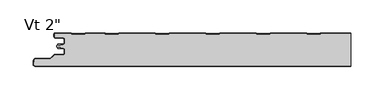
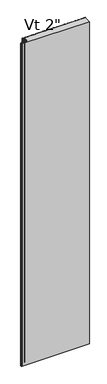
"""IFC4 building model written with IfcOpenShell, lengths in millimetres: plate geometry."""

from ifc_helpers import new_model, si_unit, point, frame, frame_2d, origin, origin_with_axes, place, context, project, spatial, polyline, circle_curve, trimmed, segment, composite_curve, outline, extrude, source, transform, mapped, element, save
from ifc_brep_helpers import plane_surface, cylinder_surface, revolved_surface, advanced_brep


def plate_daafeea0(model_context):
    return source(origin(), model_context, "Body", "SolidModel", [
        advanced_brep(
        [(-220.9683, -22.4708833, 2400.0), (-219.767176, -21.3014086, 2400.0), (-216.0087826, -21.3014086, 2400.0), (-216.0087826, -22.6998875, 2400.0), (-213.3096715, -22.6998875, 2400.0), (-209.9596762, -26.0498828, 2400.0), (-209.9596762, -30.449874, 2400.0), (-213.3096715, -33.7998693, 2400.0), (-225.1205606, -33.7998693, 2400.0), (-226.3226383, -34.2977862, 2400.0), (-231.8247094, -39.7998573, 2400.0), (-253.9198391, -39.7998573, 2400.0), (-256.5765707, -42.0184593, 2400.0), (-257.0125697, -47.0002802, 2400.0), (-254.4521175, -49.7946051, 2400.0), (221.9999998, -49.8000084, 2400.0), (221.9999998, -1.0063527, 2400.0), (176.779706, -1.0063527, 2400.0), (175.3940731, -2.2065834, 2400.0), (156.0189068, -2.2065834, 2400.0), (154.6332738, -1.0063527, 2400.0), (100.5798584, -1.0063527, 2400.0), (99.1942255, -2.2065834, 2400.0), (79.8190592, -2.2065834, 2400.0), (78.4334262, -1.0063527, 2400.0), (24.3800108, -1.0063527, 2400.0), (22.9943779, -2.2065834, 2400.0), (3.6192116, -2.2065834, 2400.0), (2.2335786, -1.0063527, 2400.0), (-51.8198368, -1.0063527, 2400.0), (-53.2054697, -2.2065834, 2400.0), (-72.580636, -2.2065834, 2400.0), (-73.966269, -1.0063527, 2400.0), (-128.0196844, -1.0063527, 2400.0), (-129.4053173, -2.2065834, 2400.0), (-148.7804836, -2.2065834, 2400.0), (-150.1661166, -1.0063527, 2400.0), (-178.819532, -1.0063527, 2400.0), (-180.2051649, -2.2065834, 2400.0), (-199.5803312, -2.2065834, 2400.0), (-200.9659738, -1.0063443, 2400.0), (-225.4662504, -1.0063443, 2400.0), (-225.4662504, -5.2378916, 2400.0), (-223.6962562, -7.0078858, 2400.0), (-213.2762777, -7.0078858, 2400.0), (-209.9762818, -10.3078817, 2400.0), (-209.9762818, -14.7078729, 2400.0), (-213.2762775, -18.0078686, 2400.0), (-215.9684873, -18.0078686, 2400.0), (-215.9684873, -19.0078631, 2400.0), (-219.968691, -19.0078631, 2400.0), (-220.9686882, -18.0078718, 2400.0), (-221.9999998, -19.0391835, 2400.0), (-221.9999998, -21.4391835, 2400.0), (-220.9683, -22.4708833, 0.0), (-221.9999998, -21.4391835, 0.0), (-221.9999998, -19.0391835, 0.0), (-220.9686882, -18.0078718, 0.0), (-219.968691, -19.0078631, 0.0), (-215.9684873, -19.0078631, 0.0), (-215.9684873, -18.0078686, 0.0), (-213.2762775, -18.0078686, 0.0), (-209.9762818, -14.7078729, 0.0), (-209.9762818, -10.3078817, 0.0), (-213.2762777, -7.0078858, 0.0), (-223.6962562, -7.0078858, 0.0), (-225.4662504, -5.2378916, 0.0), (-225.4662504, -1.0063443, 0.0), (-200.9659738, -1.0063443, 0.0), (-199.5803312, -2.2065834, 0.0), (-180.2051649, -2.2065834, 0.0), (-178.819532, -1.0063527, 0.0), (-150.1661166, -1.0063527, 0.0), (-148.7804836, -2.2065834, 0.0), (-129.4053173, -2.2065834, 0.0), (-128.0196844, -1.0063527, 0.0), (-73.966269, -1.0063527, 0.0), (-72.580636, -2.2065834, 0.0), (-53.2054697, -2.2065834, 0.0), (-51.8198368, -1.0063527, 0.0), (2.2335786, -1.0063527, 0.0), (3.6192116, -2.2065834, 0.0), (22.9943779, -2.2065834, 0.0), (24.3800108, -1.0063527, 0.0), (78.4334262, -1.0063527, 0.0), (79.8190592, -2.2065834, 0.0), (99.1942255, -2.2065834, 0.0), (100.5798584, -1.0063527, 0.0), (154.6332738, -1.0063527, 0.0), (156.0189068, -2.2065834, 0.0), (175.3940731, -2.2065834, 0.0), (176.779706, -1.0063527, 0.0), (221.9999998, -1.0063527, 0.0), (221.9999998, -49.8000084, 0.0), (-254.4521175, -49.8000084, 0.0), (-257.0125697, -47.0002802, 0.0), (-256.5765707, -42.0184593, 0.0), (-253.9198391, -39.7998573, 0.0), (-231.8247094, -39.7998573, 0.0), (-226.3226383, -34.2977862, 0.0), (-225.1205606, -33.7998693, 0.0), (-213.3096715, -33.7998693, 0.0), (-209.9596762, -30.449874, 0.0), (-209.9596762, -26.0498828, 0.0), (-213.3096715, -22.6998875, 0.0), (-216.0087826, -22.6998875, 0.0), (-216.0087826, -21.3014086, 0.0), (-219.767176, -21.3014086, 0.0)],
        [
            (0, 1, circle_curve(frame((-219.7686906, -22.5014053, 2400.0), z_axis=(0.0, 0.0, -1.0), x_axis=(-1.0, 0.0, 0.0)), 1.1999976)),
            (1, 2),
            (2, 3),
            (3, 4),
            (4, 5, circle_curve(frame((-213.3096715, -26.0498828, 2400.0), z_axis=(0.0, 0.0, -1.0), x_axis=(-1.0, 0.0, 0.0)), 3.3499953)),
            (5, 6),
            (6, 7, circle_curve(frame((-213.3096715, -30.449874, 2400.0), z_axis=(0.0, 0.0, -1.0), x_axis=(-1.0, 0.0, 0.0)), 3.3499953)),
            (7, 8),
            (8, 9, circle_curve(frame((-225.1205606, -35.4998639, 2400.0), z_axis=(0.0, 0.0, 1.0), x_axis=(-1.0, 0.0, 0.0)), 1.6999946)),
            (9, 10),
            (10, 11),
            (11, 12, circle_curve(frame((-253.9198391, -42.4998499, 2400.0), z_axis=(0.0, 0.0, 1.0), x_axis=(-1.0, 0.0, 0.0)), 2.6999926)),
            (12, 13),
            (13, 14, circle_curve(frame((-254.4521175, -47.2243658, 2400.0), z_axis=(0.0, 0.0, 1.0), x_axis=(-1.0, 0.0, 0.0)), 2.5702393)),
            (14, 15),
            (15, 16),
            (16, 17),
            (17, 18),
            (18, 19),
            (19, 20),
            (20, 21),
            (21, 22),
            (22, 23),
            (23, 24),
            (24, 25),
            (25, 26),
            (26, 27),
            (27, 28),
            (28, 29),
            (29, 30),
            (30, 31),
            (31, 32),
            (32, 33),
            (33, 34),
            (34, 35),
            (35, 36),
            (36, 37),
            (37, 38),
            (38, 39),
            (39, 40),
            (40, 41),
            (41, 42),
            (42, 43, circle_curve(frame((-223.6962562, -5.2378916, 2400.0), z_axis=(0.0, 0.0, 1.0), x_axis=(-1.0, 0.0, 0.0)), 1.7699942)),
            (43, 44),
            (44, 45, circle_curve(frame((-213.2762777, -10.3078817, 2400.0), z_axis=(0.0, 0.0, -1.0), x_axis=(-1.0, 0.0, 0.0)), 3.2999959)),
            (45, 46),
            (46, 47, circle_curve(frame((-213.2762775, -14.7078729, 2400.0), z_axis=(0.0, 0.0, -1.0), x_axis=(-1.0, 0.0, 0.0)), 3.2999957)),
            (47, 48),
            (48, 49),
            (49, 50),
            (50, 51, circle_curve(frame((-219.968691, -18.0078659, 2400.0), z_axis=(0.0, 0.0, -1.0), x_axis=(-1.0, 0.0, 0.0)), 0.9999972)),
            (51, 52),
            (52, 53),
            (53, 0),
            (54, 55),
            (55, 56),
            (56, 57),
            (57, 58, circle_curve(frame((-219.968691, -18.0078659, 0.0), z_axis=(0.0, 0.0, 1.0), x_axis=(-1.0, 0.0, 0.0)), 0.9999972)),
            (58, 59),
            (59, 60),
            (60, 61),
            (61, 62, circle_curve(frame((-213.2762775, -14.7078729, 0.0), z_axis=(0.0, 0.0, 1.0), x_axis=(-1.0, 0.0, 0.0)), 3.2999957)),
            (62, 63),
            (63, 64, circle_curve(frame((-213.2762777, -10.3078817, 0.0), z_axis=(0.0, 0.0, 1.0), x_axis=(-1.0, 0.0, 0.0)), 3.2999959)),
            (64, 65),
            (65, 66, circle_curve(frame((-223.6962562, -5.2378916, 0.0), z_axis=(0.0, 0.0, -1.0), x_axis=(-1.0, 0.0, 0.0)), 1.7699942)),
            (66, 67),
            (67, 68),
            (68, 69),
            (69, 70),
            (70, 71),
            (71, 72),
            (72, 73),
            (73, 74),
            (74, 75),
            (75, 76),
            (76, 77),
            (77, 78),
            (78, 79),
            (79, 80),
            (80, 81),
            (81, 82),
            (82, 83),
            (83, 84),
            (84, 85),
            (85, 86),
            (86, 87),
            (87, 88),
            (88, 89),
            (89, 90),
            (90, 91),
            (91, 92),
            (92, 93),
            (93, 94),
            (94, 95, circle_curve(frame((-254.4521175, -47.2243658, 0.0), z_axis=(0.0, 0.0, -1.0), x_axis=(-1.0, 0.0, 0.0)), 2.5702393)),
            (95, 96),
            (96, 97, circle_curve(frame((-253.9198391, -42.4998499, 0.0), z_axis=(0.0, 0.0, -1.0), x_axis=(-1.0, 0.0, 0.0)), 2.6999926)),
            (97, 98),
            (98, 99),
            (99, 100, circle_curve(frame((-225.1205606, -35.4998639, 0.0), z_axis=(0.0, 0.0, -1.0), x_axis=(-1.0, 0.0, 0.0)), 1.6999946)),
            (100, 101),
            (101, 102, circle_curve(frame((-213.3096715, -30.449874, 0.0), z_axis=(0.0, 0.0, 1.0), x_axis=(-1.0, 0.0, 0.0)), 3.3499953)),
            (102, 103),
            (103, 104, circle_curve(frame((-213.3096715, -26.0498828, 0.0), z_axis=(0.0, 0.0, 1.0), x_axis=(-1.0, 0.0, 0.0)), 3.3499953)),
            (104, 105),
            (105, 106),
            (106, 107),
            (107, 54, circle_curve(frame((-219.7686906, -22.5014053, 0.0), z_axis=(0.0, 0.0, 1.0), x_axis=(-1.0, 0.0, 0.0)), 1.1999976)),
            (53, 55),
            (54, 0),
            (52, 56),
            (51, 57),
            (50, 58),
            (49, 59),
            (48, 60),
            (47, 61),
            (46, 62),
            (45, 63),
            (44, 64),
            (43, 65),
            (42, 66),
            (41, 67),
            (93, 15),
            (14, 94),
            (13, 95),
            (12, 96),
            (11, 97),
            (10, 98),
            (9, 99),
            (8, 100),
            (7, 101),
            (6, 102),
            (5, 103),
            (4, 104),
            (3, 105),
            (2, 106),
            (1, 107),
            (92, 16),
            (40, 68),
            (33, 75),
            (74, 34),
            (36, 72),
            (71, 37),
            (35, 73),
            (70, 38),
            (69, 39),
            (29, 79),
            (78, 30),
            (77, 31),
            (32, 76),
            (27, 81),
            (80, 28),
            (25, 83),
            (82, 26),
            (23, 85),
            (84, 24),
            (22, 86),
            (21, 87),
            (17, 91),
            (90, 18),
            (89, 19),
            (20, 88),
        ],
        [
            plane_surface(frame((286.0000002, -49.8000084, 2400.0), z_axis=(0.0, 0.0, 1.0), x_axis=(0.0, -1.0, 0.0))),
            plane_surface(frame((286.0000002, -49.8000084, 0.0), z_axis=(0.0, 0.0, -1.0), x_axis=(0.0, -1.0, 0.0))),
            plane_surface(frame((-220.9683, -22.4708833, 2400.0), z_axis=(-0.707106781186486, -0.7071067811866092, 0.0), x_axis=(0.0, 0.0, -1.0))),
            plane_surface(frame((-221.9999998, -21.4391835, 2400.0), z_axis=(-1.0, 0.0, 0.0), x_axis=(0.0, 0.0, -1.0))),
            plane_surface(frame((-221.9999998, -19.0391835, 2400.0), z_axis=(-0.7071067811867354, 0.7071067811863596, 0.0), x_axis=(0.0, 0.0, -1.0))),
            revolved_surface(polyline([(-220.9686882, -18.0078659, 0.0), (-220.9686882, -18.0078659, 2400.0)]), (-219.968691, -18.0078659, 2400.0), (0.0, 0.0, -1.0)),
            plane_surface(frame((-219.968691, -19.0078631, 2400.0), z_axis=(0.0, 1.0, 0.0), x_axis=(0.0, 0.0, -1.0))),
            plane_surface(frame((-215.9684873, -19.0078631, 2400.0), z_axis=(-1.0, 0.0, 0.0), x_axis=(0.0, 0.0, -1.0))),
            plane_surface(frame((-215.9684873, -18.0078686, 2400.0), z_axis=(0.0, 1.0, 0.0), x_axis=(0.0, 0.0, -1.0))),
            revolved_surface(polyline([(-216.5762732, -14.7078729, 0.0), (-216.5762732, -14.7078729, 2400.0)]), (-213.2762775, -14.7078729, 2400.0), (0.0, 0.0, -1.0)),
            plane_surface(frame((-209.9762818, -14.7078729, 2400.0), z_axis=(-1.0, 0.0, 0.0), x_axis=(0.0, 0.0, -1.0))),
            revolved_surface(polyline([(-216.5762736, -10.3078817, 0.0), (-216.5762736, -10.3078817, 2400.0)]), (-213.2762777, -10.3078817, 2400.0), (0.0, 0.0, -1.0)),
            plane_surface(frame((-213.2762777, -7.0078858, 2400.0), z_axis=(0.0, -1.0, 0.0), x_axis=(0.0, 0.0, -1.0))),
            cylinder_surface(frame((-223.6962562, -5.2378916, 2400.0), z_axis=(0.0, 0.0, 1.0), x_axis=(-1.0, 0.0, 0.0)), 1.7699942),
            plane_surface(frame((-225.4662504, -5.2378916, 2400.0), z_axis=(-1.0, 0.0, 0.0), x_axis=(0.0, 0.0, -1.0))),
            plane_surface(frame((745.5156221, -49.8000084, 2400.0), z_axis=(0.0, -1.0, 0.0), x_axis=(0.0, 0.0, -1.0))),
            cylinder_surface(frame((-254.4521175, -47.2243658, 2400.0), z_axis=(0.0, 0.0, 1.0), x_axis=(-1.0, 0.0, 0.0)), 2.5702393),
            plane_surface(frame((-257.0125697, -47.0002802, 2400.0), z_axis=(-0.9961921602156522, 0.0871847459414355, 0.0), x_axis=(0.0, 0.0, -1.0))),
            cylinder_surface(frame((-253.9198391, -42.4998499, 2400.0), z_axis=(0.0, 0.0, 1.0), x_axis=(-1.0, 0.0, 0.0)), 2.6999926),
            plane_surface(frame((-253.9198391, -39.7998573, 2400.0), z_axis=(0.0, 1.0, 0.0), x_axis=(0.0, 0.0, -1.0))),
            plane_surface(frame((-231.8247094, -39.7998573, 2400.0), z_axis=(-0.7071067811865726, 0.7071067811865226, 0.0), x_axis=(0.0, 0.0, -1.0))),
            cylinder_surface(frame((-225.1205606, -35.4998639, 2400.0), z_axis=(0.0, 0.0, 1.0), x_axis=(-1.0, 0.0, 0.0)), 1.6999946),
            plane_surface(frame((-225.1205606, -33.7998693, 2400.0), z_axis=(0.0, 1.0, 0.0), x_axis=(0.0, 0.0, -1.0))),
            revolved_surface(polyline([(-216.6596668, -30.449874, 0.0), (-216.6596668, -30.449874, 2400.0)]), (-213.3096715, -30.449874, 2400.0), (0.0, 0.0, -1.0)),
            plane_surface(frame((-209.9596762, -30.449874, 2400.0), z_axis=(-1.0, 0.0, 0.0), x_axis=(0.0, 0.0, -1.0))),
            revolved_surface(polyline([(-216.6596668, -26.0498828, 0.0), (-216.6596668, -26.0498828, 2400.0)]), (-213.3096715, -26.0498828, 2400.0), (0.0, 0.0, -1.0)),
            plane_surface(frame((-213.3096715, -22.6998875, 2400.0), z_axis=(0.0, -1.0, 0.0), x_axis=(0.0, 0.0, -1.0))),
            plane_surface(frame((-216.0087826, -22.6998875, 2400.0), z_axis=(-1.0, 0.0, 0.0), x_axis=(0.0, 0.0, -1.0))),
            plane_surface(frame((-216.0087826, -21.3014086, 2400.0), z_axis=(0.0, -1.0, 0.0), x_axis=(0.0, 0.0, -1.0))),
            revolved_surface(polyline([(-220.9686882, -22.5014053, 0.0), (-220.9686882, -22.5014053, 2400.0)]), (-219.7686906, -22.5014053, 2400.0), (0.0, 0.0, -1.0)),
            plane_surface(frame((221.9999998, -60.8000084, 2400.0), z_axis=(1.0, 0.0, 0.0), x_axis=(0.0, 0.0, -1.0))),
            plane_surface(frame((-225.4662504, -1.0063443, 2400.0), z_axis=(0.0, 1.0, 0.0), x_axis=(0.0, 0.0, -1.0))),
            plane_surface(frame((-129.4053173, -2.2065834, 2400.0), z_axis=(-0.6547276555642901, 0.7558648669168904, 0.0), x_axis=(0.0, 0.0, -1.0))),
            plane_surface(frame((-178.819532, -1.0063527, 2400.0), z_axis=(0.0, 1.0, 0.0), x_axis=(0.0, 0.0, -1.0))),
            plane_surface(frame((-150.1661166, -1.0063527, 2400.0), z_axis=(0.6547276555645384, 0.7558648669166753, 0.0), x_axis=(0.0, 0.0, -1.0))),
            plane_surface(frame((-180.2051649, -2.2065834, 2400.0), z_axis=(-0.6547276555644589, 0.7558648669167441, 0.0), x_axis=(0.0, 0.0, -1.0))),
            plane_surface(frame((-199.5803312, -2.2065834, 2400.0), z_axis=(0.0, 1.0, 0.0), x_axis=(0.0, 0.0, -1.0))),
            plane_surface(frame((-148.7804836, -2.2065834, 2400.0), z_axis=(0.0, 1.0, 0.0), x_axis=(0.0, 0.0, -1.0))),
            plane_surface(frame((-53.2054697, -2.2065834, 2400.0), z_axis=(-0.6547276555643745, 0.7558648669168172, 0.0), x_axis=(0.0, 0.0, -1.0))),
            plane_surface(frame((-72.580636, -2.2065834, 2400.0), z_axis=(0.0, 1.0, 0.0), x_axis=(0.0, 0.0, -1.0))),
            plane_surface(frame((-128.0196844, -1.0063527, 2400.0), z_axis=(0.0, 1.0, 0.0), x_axis=(0.0, 0.0, -1.0))),
            plane_surface(frame((-73.966269, -1.0063527, 2400.0), z_axis=(0.6547276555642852, 0.7558648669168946, 0.0), x_axis=(0.0, 0.0, -1.0))),
            plane_surface(frame((2.2335786, -1.0063527, 2400.0), z_axis=(0.6547276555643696, 0.7558648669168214, 0.0), x_axis=(0.0, 0.0, -1.0))),
            plane_surface(frame((22.9943779, -2.2065834, 2400.0), z_axis=(-0.6547276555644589, 0.7558648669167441, 0.0), x_axis=(0.0, 0.0, -1.0))),
            plane_surface(frame((-51.8198368, -1.0063527, 2400.0), z_axis=(0.0, 1.0, 0.0), x_axis=(0.0, 0.0, -1.0))),
            plane_surface(frame((3.6192116, -2.2065834, 2400.0), z_axis=(0.0, 1.0, 0.0), x_axis=(0.0, 0.0, -1.0))),
            plane_surface(frame((78.4334262, -1.0063527, 2400.0), z_axis=(0.654727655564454, 0.7558648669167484, 0.0), x_axis=(0.0, 0.0, -1.0))),
            plane_surface(frame((24.3800108, -1.0063527, 2400.0), z_axis=(0.0, 1.0, 0.0), x_axis=(0.0, 0.0, -1.0))),
            plane_surface(frame((79.8190592, -2.2065834, 2400.0), z_axis=(0.0, 1.0, 0.0), x_axis=(0.0, 0.0, -1.0))),
            plane_surface(frame((99.1942255, -2.2065834, 2400.0), z_axis=(-0.6547276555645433, 0.7558648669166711, 0.0), x_axis=(0.0, 0.0, -1.0))),
            plane_surface(frame((175.3940731, -2.2065834, 2400.0), z_axis=(-0.654727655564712, 0.755864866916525, 0.0), x_axis=(0.0, 0.0, -1.0))),
            plane_surface(frame((156.0189068, -2.2065834, 2400.0), z_axis=(0.0, 1.0, 0.0), x_axis=(0.0, 0.0, -1.0))),
            plane_surface(frame((100.5798584, -1.0063527, 2400.0), z_axis=(0.0, 1.0, 0.0), x_axis=(0.0, 0.0, -1.0))),
            plane_surface(frame((154.6332738, -1.0063527, 2400.0), z_axis=(0.6547276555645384, 0.7558648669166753, 0.0), x_axis=(0.0, 0.0, -1.0))),
            plane_surface(frame((176.779706, -1.0063527, 2400.0), z_axis=(0.0, 1.0, 0.0), x_axis=(0.0, 0.0, -1.0))),
            plane_surface(frame((-200.9659738, -1.0063443, 2400.0), z_axis=(0.6547276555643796, 0.7558648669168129, 0.0), x_axis=(0.0, 0.0, -1.0))),
        ],
        [
            (0, [[1, 2, 3, 4, 5, 6, 7, 8, 9, 10, 11, 12, 13, 14, 15, 16, 17, 18, 19, 20, 21, 22, 23, 24, 25, 26, 27, 28, 29, 30, 31, 32, 33, 34, 35, 36, 37, 38, 39, 40, 41, 42, 43, 44, 45, 46, 47, 48, 49, 50, 51, 52, 53, 54]]),
            (1, [[55, 56, 57, 58, 59, 60, 61, 62, 63, 64, 65, 66, 67, 68, 69, 70, 71, 72, 73, 74, 75, 76, 77, 78, 79, 80, 81, 82, 83, 84, 85, 86, 87, 88, 89, 90, 91, 92, 93, 94, 95, 96, 97, 98, 99, 100, 101, 102, 103, 104, 105, 106, 107, 108]]),
            (2, [[109, -55, 110, -54]]),
            (3, [[111, -56, -109, -53]]),
            (4, [[112, -57, -111, -52]]),
            (5, [[113, -58, -112, -51]]),
            (6, [[114, -59, -113, -50]]),
            (7, [[115, -60, -114, -49]]),
            (8, [[116, -61, -115, -48]]),
            (9, [[117, -62, -116, -47]]),
            (10, [[118, -63, -117, -46]]),
            (11, [[119, -64, -118, -45]]),
            (12, [[120, -65, -119, -44]]),
            (13, [[121, -66, -120, -43]]),
            (14, [[122, -67, -121, -42]]),
            (15, [[-94, 123, -15, 124]]),
            (16, [[125, -95, -124, -14]]),
            (17, [[126, -96, -125, -13]]),
            (18, [[127, -97, -126, -12]]),
            (19, [[128, -98, -127, -11]]),
            (20, [[129, -99, -128, -10]]),
            (21, [[130, -100, -129, -9]]),
            (22, [[131, -101, -130, -8]]),
            (23, [[132, -102, -131, -7]]),
            (24, [[133, -103, -132, -6]]),
            (25, [[134, -104, -133, -5]]),
            (26, [[135, -105, -134, -4]]),
            (27, [[136, -106, -135, -3]]),
            (28, [[137, -107, -136, -2]]),
            (29, [[-110, -108, -137, -1]]),
            (30, [[-123, -93, 138, -16]]),
            (31, [[139, -68, -122, -41]]),
            (32, [[140, -75, 141, -34]]),
            (33, [[142, -72, 143, -37]]),
            (34, [[144, -73, -142, -36]]),
            (35, [[-143, -71, 145, -38]]),
            (36, [[-145, -70, 146, -39]]),
            (37, [[-141, -74, -144, -35]]),
            (38, [[147, -79, 148, -30]]),
            (39, [[-148, -78, 149, -31]]),
            (40, [[150, -76, -140, -33]]),
            (41, [[-149, -77, -150, -32]]),
            (42, [[151, -81, 152, -28]]),
            (43, [[153, -83, 154, -26]]),
            (44, [[-152, -80, -147, -29]]),
            (45, [[-154, -82, -151, -27]]),
            (46, [[155, -85, 156, -24]]),
            (47, [[-156, -84, -153, -25]]),
            (48, [[157, -86, -155, -23]]),
            (49, [[158, -87, -157, -22]]),
            (50, [[159, -91, 160, -18]]),
            (51, [[-160, -90, 161, -19]]),
            (52, [[162, -88, -158, -21]]),
            (53, [[-161, -89, -162, -20]]),
            (54, [[-17, -138, -92, -159]]),
            (55, [[-146, -69, -139, -40]]),
        ],
    ),
        advanced_brep(
        [(-219.9686911, -17.0015243, 2400.0), (-220.9686883, -18.0015275, 2400.0), (-219.9686911, -19.0015188, 2400.0), (-215.9684874, -19.0015188, 2400.0), (-215.9684874, -18.0015243, 2400.0), (-213.2762776, -18.0015243, 2400.0), (-209.9762819, -14.7015286, 2400.0), (-209.9762819, -10.3015374, 2400.0), (-213.2762774, -7.0015419, 2400.0), (-223.6962563, -7.0015419, 2400.0), (-225.4662505, -5.2315477, 2400.0), (-225.4662505, -1.0, 2400.0), (-200.9659739, -1.0, 2400.0), (-199.5803313, -2.2002391, 2400.0), (-180.205165, -2.2002391, 2400.0), (-178.819532, -1.0000084, 2400.0), (-150.1661166, -1.0000084, 2400.0), (-148.7804837, -2.2002391, 2400.0), (-129.4053174, -2.2002391, 2400.0), (-128.0196844, -1.0000084, 2400.0), (-73.966269, -1.0000084, 2400.0), (-72.5806361, -2.2002391, 2400.0), (-53.2054698, -2.2002391, 2400.0), (-51.8198368, -1.0000084, 2400.0), (2.2335786, -1.0000084, 2400.0), (3.6192115, -2.2002391, 2400.0), (22.9943778, -2.2002391, 2400.0), (24.3800108, -1.0000084, 2400.0), (78.4334262, -1.0000084, 2400.0), (79.8190591, -2.2002391, 2400.0), (99.1942254, -2.2002391, 2400.0), (100.5798584, -1.0000084, 2400.0), (154.6332738, -1.0000084, 2400.0), (156.0189067, -2.2002391, 2400.0), (175.394073, -2.2002391, 2400.0), (176.779706, -1.0000084, 2400.0), (221.9999998, -1.0000084, 2400.0), (221.9999998, -8.4e-06, 2400.0), (176.9288571, -8.4e-06, 2400.0), (176.0122402, -0.3417969, 2400.0), (175.0211926, -1.2002391, 2400.0), (156.3917872, -1.2002391, 2400.0), (155.4007395, -0.3417969, 2400.0), (154.4841226, -8.4e-06, 2400.0), (100.7290095, -8.4e-06, 2400.0), (99.8123926, -0.3417969, 2400.0), (98.821345, -1.2002391, 2400.0), (80.1919396, -1.2002391, 2400.0), (79.2008919, -0.3417969, 2400.0), (78.284275, -8.4e-06, 2400.0), (24.5291619, -8.4e-06, 2400.0), (23.612545, -0.3417969, 2400.0), (22.6214974, -1.2002391, 2400.0), (3.992092, -1.2002391, 2400.0), (3.0010443, -0.3417969, 2400.0), (2.0844274, -8.4e-06, 2400.0), (-51.6706857, -8.4e-06, 2400.0), (-52.5873026, -0.3417969, 2400.0), (-53.5783502, -1.2002391, 2400.0), (-72.2077556, -1.2002391, 2400.0), (-73.1988033, -0.3417969, 2400.0), (-74.1154202, -8.4e-06, 2400.0), (-127.8705333, -8.4e-06, 2400.0), (-128.7871502, -0.3417969, 2400.0), (-129.7781978, -1.2002391, 2400.0), (-148.4076032, -1.2002391, 2400.0), (-149.3986509, -0.3417969, 2400.0), (-150.3152678, -8.4e-06, 2400.0), (-178.6703809, -8.4e-06, 2400.0), (-179.5869978, -0.3417969, 2400.0), (-180.5780454, -1.2002391, 2400.0), (-199.2074508, -1.2002391, 2400.0), (-200.1984985, -0.3417969, 2400.0), (-201.1152068, -8.4e-06, 2400.0), (-225.0662544, 0.0, 2400.0), (-226.4662505, -1.3999962, 2400.0), (-226.4662505, -5.2315477, 2400.0), (-223.6962563, -8.0015419, 2400.0), (-213.2762774, -8.0015419, 2400.0), (-210.9762819, -10.3015374, 2400.0), (-210.9762819, -14.7015286, 2400.0), (-213.2762776, -17.0015243, 2400.0), (-219.9686911, -17.0015243, 0.0), (-213.2762776, -17.0015243, 0.0), (-210.9762819, -14.7015286, 0.0), (-210.9762819, -10.3015374, 0.0), (-213.2762774, -8.0015419, 0.0), (-223.6962563, -8.0015419, 0.0), (-226.4662505, -5.2315477, 0.0), (-226.4662505, -1.3999962, 0.0), (-225.0662544, 0.0, 0.0), (-201.1151154, 0.0, 0.0), (-200.1984985, -0.3417969, 0.0), (-199.2074508, -1.2002391, 0.0), (-180.5780454, -1.2002391, 0.0), (-179.5869978, -0.3417969, 0.0), (-178.6703809, -8.4e-06, 0.0), (-150.3152678, -8.4e-06, 0.0), (-149.3986509, -0.3417969, 0.0), (-148.4076032, -1.2002391, 0.0), (-129.7781978, -1.2002391, 0.0), (-128.7871502, -0.3417969, 0.0), (-127.8705333, -8.4e-06, 0.0), (-74.1154202, -8.4e-06, 0.0), (-73.1988033, -0.3417969, 0.0), (-72.2077556, -1.2002391, 0.0), (-53.5783502, -1.2002391, 0.0), (-52.5873026, -0.3417969, 0.0), (-51.6706857, -8.4e-06, 0.0), (2.0844274, -8.4e-06, 0.0), (3.0010443, -0.3417969, 0.0), (3.992092, -1.2002391, 0.0), (22.6214974, -1.2002391, 0.0), (23.612545, -0.3417969, 0.0), (24.5291619, -8.4e-06, 0.0), (78.284275, -8.4e-06, 0.0), (79.2008919, -0.3417969, 0.0), (80.1919396, -1.2002391, 0.0), (98.821345, -1.2002391, 0.0), (99.8123926, -0.3417969, 0.0), (100.7290095, -8.4e-06, 0.0), (154.4841226, -8.4e-06, 0.0), (155.4007395, -0.3417969, 0.0), (156.3917872, -1.2002391, 0.0), (175.0211926, -1.2002391, 0.0), (176.0122402, -0.3417969, 0.0), (176.9288571, -8.4e-06, 0.0), (221.9999998, -8.4e-06, 0.0), (221.9999998, -1.0000084, 0.0), (176.779706, -1.0000084, 0.0), (175.394073, -2.2002391, 0.0), (156.0189067, -2.2002391, 0.0), (154.6332738, -1.0000084, 0.0), (100.5798584, -1.0000084, 0.0), (99.1942254, -2.2002391, 0.0), (79.8190591, -2.2002391, 0.0), (78.4334262, -1.0000084, 0.0), (24.3800108, -1.0000084, 0.0), (22.9943778, -2.2002391, 0.0), (3.6192115, -2.2002391, 0.0), (2.2335786, -1.0000084, 0.0), (-51.8198368, -1.0000084, 0.0), (-53.2054698, -2.2002391, 0.0), (-72.5806361, -2.2002391, 0.0), (-73.966269, -1.0000084, 0.0), (-128.0196844, -1.0000084, 0.0), (-129.4053174, -2.2002391, 0.0), (-148.7804837, -2.2002391, 0.0), (-150.1661166, -1.0000084, 0.0), (-178.819532, -1.0000084, 0.0), (-180.205165, -2.2002391, 0.0), (-199.5803313, -2.2002391, 0.0), (-200.9659739, -1.0, 0.0), (-225.4662505, -1.0, 0.0), (-225.4662505, -5.2315477, 0.0), (-223.6962563, -7.0015419, 0.0), (-213.2762774, -7.0015419, 0.0), (-209.9762819, -10.3015374, 0.0), (-209.9762819, -14.7015286, 0.0), (-213.2762776, -18.0015243, 0.0), (-215.9684874, -18.0015243, 0.0), (-215.9684874, -19.0015188, 0.0), (-219.9686911, -19.0015188, 0.0), (-220.9686883, -18.0015275, 0.0)],
        [
            (0, 1, circle_curve(frame((-219.9686911, -18.0015215, 2400.0), z_axis=(0.0, 0.0, 1.0), x_axis=(1.0, 0.0, 0.0)), 0.9999973)),
            (1, 2, circle_curve(frame((-219.9686911, -18.0015216, 2400.0), z_axis=(0.0, 0.0, 1.0), x_axis=(1.0, 0.0, 0.0)), 0.9999972)),
            (2, 3),
            (3, 4),
            (4, 5),
            (5, 6, circle_curve(frame((-213.2762776, -14.7015286, 2400.0), z_axis=(0.0, 0.0, 1.0), x_axis=(1.0, 0.0, 0.0)), 3.2999957)),
            (6, 7),
            (7, 8, circle_curve(frame((-213.2762774, -10.3015374, 2400.0), z_axis=(0.0, 0.0, 1.0), x_axis=(1.0, 0.0, 0.0)), 3.2999955)),
            (8, 9),
            (9, 10, circle_curve(frame((-223.6962563, -5.2315477, 2400.0), z_axis=(0.0, 0.0, -1.0), x_axis=(1.0, 0.0, 0.0)), 1.7699942)),
            (10, 11),
            (11, 12),
            (12, 13),
            (13, 14),
            (14, 15),
            (15, 16),
            (16, 17),
            (17, 18),
            (18, 19),
            (19, 20),
            (20, 21),
            (21, 22),
            (22, 23),
            (23, 24),
            (24, 25),
            (25, 26),
            (26, 27),
            (27, 28),
            (28, 29),
            (29, 30),
            (30, 31),
            (31, 32),
            (32, 33),
            (33, 34),
            (34, 35),
            (35, 36),
            (36, 37),
            (37, 38),
            (38, 39, circle_curve(frame((176.9288571, -1.4000056, 2400.0), z_axis=(0.0, 0.0, 1.0), x_axis=(1.0, 0.0, 0.0)), 1.3999972)),
            (39, 40),
            (40, 41),
            (41, 42),
            (42, 43, circle_curve(frame((154.4841226, -1.4000056, 2400.0), z_axis=(0.0, 0.0, 1.0), x_axis=(1.0, 0.0, 0.0)), 1.3999972)),
            (43, 44),
            (44, 45, circle_curve(frame((100.7290095, -1.4000056, 2400.0), z_axis=(0.0, 0.0, 1.0), x_axis=(1.0, 0.0, 0.0)), 1.3999972)),
            (45, 46),
            (46, 47),
            (47, 48),
            (48, 49, circle_curve(frame((78.284275, -1.4000056, 2400.0), z_axis=(0.0, 0.0, 1.0), x_axis=(1.0, 0.0, 0.0)), 1.3999972)),
            (49, 50),
            (50, 51, circle_curve(frame((24.5291619, -1.4000056, 2400.0), z_axis=(0.0, 0.0, 1.0), x_axis=(1.0, 0.0, 0.0)), 1.3999972)),
            (51, 52),
            (52, 53),
            (53, 54),
            (54, 55, circle_curve(frame((2.0844274, -1.4000056, 2400.0), z_axis=(0.0, 0.0, 1.0), x_axis=(1.0, 0.0, 0.0)), 1.3999972)),
            (55, 56),
            (56, 57, circle_curve(frame((-51.6706857, -1.4000056, 2400.0), z_axis=(0.0, 0.0, 1.0), x_axis=(1.0, 0.0, 0.0)), 1.3999972)),
            (57, 58),
            (58, 59),
            (59, 60),
            (60, 61, circle_curve(frame((-74.1154202, -1.4000056, 2400.0), z_axis=(0.0, 0.0, 1.0), x_axis=(1.0, 0.0, 0.0)), 1.3999972)),
            (61, 62),
            (62, 63, circle_curve(frame((-127.8705333, -1.4000056, 2400.0), z_axis=(0.0, 0.0, 1.0), x_axis=(1.0, 0.0, 0.0)), 1.3999972)),
            (63, 64),
            (64, 65),
            (65, 66),
            (66, 67, circle_curve(frame((-150.3152678, -1.4000056, 2400.0), z_axis=(0.0, 0.0, 1.0), x_axis=(1.0, 0.0, 0.0)), 1.3999972)),
            (67, 68),
            (68, 69, circle_curve(frame((-178.6703809, -1.4000056, 2400.0), z_axis=(0.0, 0.0, 1.0), x_axis=(1.0, 0.0, 0.0)), 1.3999972)),
            (69, 70),
            (70, 71),
            (71, 72),
            (72, 73, circle_curve(frame((-201.1151154, -1.4000056, 2400.0), z_axis=(0.0, 0.0, 1.0), x_axis=(1.0, 0.0, 0.0)), 1.3999972)),
            (73, 74),
            (74, 75, circle_curve(frame((-225.0662544, -1.3999962, 2400.0), z_axis=(0.0, 0.0, 1.0), x_axis=(1.0, 0.0, 0.0)), 1.3999962)),
            (75, 76),
            (76, 77, circle_curve(frame((-223.6962563, -5.2315477, 2400.0), z_axis=(0.0, 0.0, 1.0), x_axis=(1.0, 0.0, 0.0)), 2.7699942)),
            (77, 78),
            (78, 79, circle_curve(frame((-213.2762774, -10.3015374, 2400.0), z_axis=(0.0, 0.0, -1.0), x_axis=(1.0, 0.0, 0.0)), 2.2999955)),
            (79, 80),
            (80, 81, circle_curve(frame((-213.2762776, -14.7015286, 2400.0), z_axis=(0.0, 0.0, -1.0), x_axis=(1.0, 0.0, 0.0)), 2.2999957)),
            (81, 0),
            (82, 83),
            (83, 84, circle_curve(frame((-213.2762776, -14.7015286, 0.0), z_axis=(0.0, 0.0, 1.0), x_axis=(1.0, 0.0, 0.0)), 2.2999957)),
            (84, 85),
            (85, 86, circle_curve(frame((-213.2762774, -10.3015374, 0.0), z_axis=(0.0, 0.0, 1.0), x_axis=(1.0, 0.0, 0.0)), 2.2999955)),
            (86, 87),
            (87, 88, circle_curve(frame((-223.6962563, -5.2315477, 0.0), z_axis=(0.0, 0.0, -1.0), x_axis=(1.0, 0.0, 0.0)), 2.7699942)),
            (88, 89),
            (89, 90, circle_curve(frame((-225.0662544, -1.3999962, 0.0), z_axis=(0.0, 0.0, -1.0), x_axis=(1.0, 0.0, 0.0)), 1.3999962)),
            (90, 91),
            (91, 92, circle_curve(frame((-201.1151154, -1.4000056, 0.0), z_axis=(0.0, 0.0, -1.0), x_axis=(1.0, 0.0, 0.0)), 1.3999972)),
            (92, 93),
            (93, 94),
            (94, 95),
            (95, 96, circle_curve(frame((-178.6703809, -1.4000056, 0.0), z_axis=(0.0, 0.0, -1.0), x_axis=(1.0, 0.0, 0.0)), 1.3999972)),
            (96, 97),
            (97, 98, circle_curve(frame((-150.3152678, -1.4000056, 0.0), z_axis=(0.0, 0.0, -1.0), x_axis=(1.0, 0.0, 0.0)), 1.3999972)),
            (98, 99),
            (99, 100),
            (100, 101),
            (101, 102, circle_curve(frame((-127.8705333, -1.4000056, 0.0), z_axis=(0.0, 0.0, -1.0), x_axis=(1.0, 0.0, 0.0)), 1.3999972)),
            (102, 103),
            (103, 104, circle_curve(frame((-74.1154202, -1.4000056, 0.0), z_axis=(0.0, 0.0, -1.0), x_axis=(1.0, 0.0, 0.0)), 1.3999972)),
            (104, 105),
            (105, 106),
            (106, 107),
            (107, 108, circle_curve(frame((-51.6706857, -1.4000056, 0.0), z_axis=(0.0, 0.0, -1.0), x_axis=(1.0, 0.0, 0.0)), 1.3999972)),
            (108, 109),
            (109, 110, circle_curve(frame((2.0844274, -1.4000056, 0.0), z_axis=(0.0, 0.0, -1.0), x_axis=(1.0, 0.0, 0.0)), 1.3999972)),
            (110, 111),
            (111, 112),
            (112, 113),
            (113, 114, circle_curve(frame((24.5291619, -1.4000056, 0.0), z_axis=(0.0, 0.0, -1.0), x_axis=(1.0, 0.0, 0.0)), 1.3999972)),
            (114, 115),
            (115, 116, circle_curve(frame((78.284275, -1.4000056, 0.0), z_axis=(0.0, 0.0, -1.0), x_axis=(1.0, 0.0, 0.0)), 1.3999972)),
            (116, 117),
            (117, 118),
            (118, 119),
            (119, 120, circle_curve(frame((100.7290095, -1.4000056, 0.0), z_axis=(0.0, 0.0, -1.0), x_axis=(1.0, 0.0, 0.0)), 1.3999972)),
            (120, 121),
            (121, 122, circle_curve(frame((154.4841226, -1.4000056, 0.0), z_axis=(0.0, 0.0, -1.0), x_axis=(1.0, 0.0, 0.0)), 1.3999972)),
            (122, 123),
            (123, 124),
            (124, 125),
            (125, 126, circle_curve(frame((176.9288571, -1.4000056, 0.0), z_axis=(0.0, 0.0, -1.0), x_axis=(1.0, 0.0, 0.0)), 1.3999972)),
            (126, 127),
            (127, 128),
            (128, 129),
            (129, 130),
            (130, 131),
            (131, 132),
            (132, 133),
            (133, 134),
            (134, 135),
            (135, 136),
            (136, 137),
            (137, 138),
            (138, 139),
            (139, 140),
            (140, 141),
            (141, 142),
            (142, 143),
            (143, 144),
            (144, 145),
            (145, 146),
            (146, 147),
            (147, 148),
            (148, 149),
            (149, 150),
            (150, 151),
            (151, 152),
            (152, 153),
            (153, 154),
            (154, 155, circle_curve(frame((-223.6962563, -5.2315477, 0.0), z_axis=(0.0, 0.0, 1.0), x_axis=(1.0, 0.0, 0.0)), 1.7699942)),
            (155, 156),
            (156, 157, circle_curve(frame((-213.2762774, -10.3015374, 0.0), z_axis=(0.0, 0.0, -1.0), x_axis=(1.0, 0.0, 0.0)), 3.2999955)),
            (157, 158),
            (158, 159, circle_curve(frame((-213.2762776, -14.7015286, 0.0), z_axis=(0.0, 0.0, -1.0), x_axis=(1.0, 0.0, 0.0)), 3.2999957)),
            (159, 160),
            (160, 161),
            (161, 162),
            (162, 163, circle_curve(frame((-219.9686911, -18.0015216, 0.0), z_axis=(0.0, 0.0, -1.0), x_axis=(1.0, 0.0, 0.0)), 0.9999972)),
            (163, 82, circle_curve(frame((-219.9686911, -18.0015215, 0.0), z_axis=(0.0, 0.0, -1.0), x_axis=(1.0, 0.0, 0.0)), 0.9999973)),
            (36, 128),
            (127, 37),
            (81, 83),
            (82, 0),
            (80, 84),
            (79, 85),
            (78, 86),
            (77, 87),
            (76, 88),
            (75, 89),
            (74, 90),
            (73, 91),
            (72, 92),
            (71, 93),
            (70, 94),
            (69, 95),
            (68, 96),
            (67, 97),
            (66, 98),
            (65, 99),
            (64, 100),
            (63, 101),
            (62, 102),
            (61, 103),
            (60, 104),
            (59, 105),
            (58, 106),
            (57, 107),
            (56, 108),
            (55, 109),
            (54, 110),
            (53, 111),
            (52, 112),
            (51, 113),
            (50, 114),
            (49, 115),
            (48, 116),
            (47, 117),
            (46, 118),
            (45, 119),
            (44, 120),
            (43, 121),
            (42, 122),
            (41, 123),
            (40, 124),
            (39, 125),
            (38, 126),
            (35, 129),
            (34, 130),
            (33, 131),
            (32, 132),
            (31, 133),
            (30, 134),
            (29, 135),
            (28, 136),
            (27, 137),
            (26, 138),
            (25, 139),
            (24, 140),
            (23, 141),
            (22, 142),
            (21, 143),
            (20, 144),
            (19, 145),
            (18, 146),
            (17, 147),
            (16, 148),
            (15, 149),
            (14, 150),
            (13, 151),
            (12, 152),
            (11, 153),
            (10, 154),
            (9, 155),
            (8, 156),
            (7, 157),
            (6, 158),
            (5, 159),
            (4, 160),
            (3, 161),
            (2, 162),
            (1, 163),
        ],
        [
            plane_surface(frame((286.0000002, -8.4e-06, 2400.0), z_axis=(0.0, 0.0, 1.0), x_axis=(0.0, 1.0, 0.0))),
            plane_surface(frame((286.0000002, -8.4e-06, 0.0), z_axis=(0.0, 0.0, -1.0), x_axis=(0.0, 1.0, 0.0))),
            plane_surface(frame((221.9999998, -60.8000084, 2400.0), z_axis=(1.0, 0.0, 0.0), x_axis=(0.0, 0.0, -1.0))),
            plane_surface(frame((-219.9686911, -17.0015243, 2400.0), z_axis=(0.0, 1.0, 0.0), x_axis=(0.0, 0.0, -1.0))),
            revolved_surface(polyline([(-210.97628189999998, -14.7015286, 0.0), (-210.97628189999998, -14.7015286, 2400.0)]), (-213.2762776, -14.7015286, 2400.0), (0.0, 0.0, -1.0)),
            plane_surface(frame((-210.9762819, -14.7015286, 2400.0), z_axis=(-1.0, 0.0, 0.0), x_axis=(0.0, 0.0, -1.0))),
            revolved_surface(polyline([(-210.9762819, -10.3015374, 0.0), (-210.9762819, -10.3015374, 2400.0)]), (-213.2762774, -10.3015374, 2400.0), (0.0, 0.0, -1.0)),
            plane_surface(frame((-213.2762774, -8.0015419, 2400.0), z_axis=(0.0, -1.0, 0.0), x_axis=(0.0, 0.0, -1.0))),
            cylinder_surface(frame((-223.6962563, -5.2315477, 2400.0), z_axis=(0.0, 0.0, 1.0), x_axis=(1.0, 0.0, 0.0)), 2.7699942),
            plane_surface(frame((-226.4662505, -5.2315477, 2400.0), z_axis=(-1.0, 0.0, 0.0), x_axis=(0.0, 0.0, -1.0))),
            cylinder_surface(frame((-225.0662544, -1.3999962, 2400.0), z_axis=(0.0, 0.0, 1.0), x_axis=(1.0, 0.0, 0.0)), 1.3999962),
            plane_surface(frame((-225.0662544, 0.0, 2400.0), z_axis=(0.0, 1.0, 0.0), x_axis=(0.0, 0.0, -1.0))),
            cylinder_surface(frame((-201.1151154, -1.4000056, 2400.0), z_axis=(0.0, 0.0, 1.0), x_axis=(1.0, 0.0, 0.0)), 1.3999972),
            plane_surface(frame((-200.1984985, -0.3417969, 2400.0), z_axis=(0.6547276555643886, 0.755864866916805, 0.0), x_axis=(0.0, 0.0, -1.0))),
            plane_surface(frame((-189.8927481, -1.2002391, 2400.0), z_axis=(0.0, 1.0, 0.0), x_axis=(0.0, 0.0, -1.0))),
            plane_surface(frame((-180.5780454, -1.2002391, 2400.0), z_axis=(-0.6547276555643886, 0.755864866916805, 0.0), x_axis=(0.0, 0.0, -1.0))),
            cylinder_surface(frame((-178.6703809, -1.4000056, 2400.0), z_axis=(0.0, 0.0, 1.0), x_axis=(1.0, 0.0, 0.0)), 1.3999972),
            plane_surface(frame((-178.6703809, -8.4e-06, 2400.0), z_axis=(0.0, 1.0, 0.0), x_axis=(0.0, 0.0, -1.0))),
            cylinder_surface(frame((-150.3152678, -1.4000056, 2400.0), z_axis=(0.0, 0.0, 1.0), x_axis=(1.0, 0.0, 0.0)), 1.3999972),
            plane_surface(frame((-149.3986509, -0.3417969, 2400.0), z_axis=(0.6547276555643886, 0.755864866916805, 0.0), x_axis=(0.0, 0.0, -1.0))),
            plane_surface(frame((-139.0929005, -1.2002391, 2400.0), z_axis=(0.0, 1.0, 0.0), x_axis=(0.0, 0.0, -1.0))),
            plane_surface(frame((-129.7781978, -1.2002391, 2400.0), z_axis=(-0.6547276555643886, 0.755864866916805, 0.0), x_axis=(0.0, 0.0, -1.0))),
            cylinder_surface(frame((-127.8705333, -1.4000056, 2400.0), z_axis=(0.0, 0.0, 1.0), x_axis=(1.0, 0.0, 0.0)), 1.3999972),
            plane_surface(frame((-127.8705333, -8.4e-06, 2400.0), z_axis=(0.0, 1.0, 0.0), x_axis=(0.0, 0.0, -1.0))),
            cylinder_surface(frame((-74.1154202, -1.4000056, 2400.0), z_axis=(0.0, 0.0, 1.0), x_axis=(1.0, 0.0, 0.0)), 1.3999972),
            plane_surface(frame((-73.1988033, -0.3417969, 2400.0), z_axis=(0.6547276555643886, 0.755864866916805, 0.0), x_axis=(0.0, 0.0, -1.0))),
            plane_surface(frame((-62.8930529, -1.2002391, 2400.0), z_axis=(0.0, 1.0, 0.0), x_axis=(0.0, 0.0, -1.0))),
            plane_surface(frame((-53.5783502, -1.2002391, 2400.0), z_axis=(-0.6547276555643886, 0.755864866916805, 0.0), x_axis=(0.0, 0.0, -1.0))),
            cylinder_surface(frame((-51.6706857, -1.4000056, 2400.0), z_axis=(0.0, 0.0, 1.0), x_axis=(1.0, 0.0, 0.0)), 1.3999972),
            plane_surface(frame((-51.6706857, -8.4e-06, 2400.0), z_axis=(0.0, 1.0, 0.0), x_axis=(0.0, 0.0, -1.0))),
            cylinder_surface(frame((2.0844274, -1.4000056, 2400.0), z_axis=(0.0, 0.0, 1.0), x_axis=(1.0, 0.0, 0.0)), 1.3999972),
            plane_surface(frame((3.0010443, -0.3417969, 2400.0), z_axis=(0.6547276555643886, 0.755864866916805, 0.0), x_axis=(0.0, 0.0, -1.0))),
            plane_surface(frame((13.3067947, -1.2002391, 2400.0), z_axis=(0.0, 1.0, 0.0), x_axis=(0.0, 0.0, -1.0))),
            plane_surface(frame((22.6214974, -1.2002391, 2400.0), z_axis=(-0.6547276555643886, 0.755864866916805, 0.0), x_axis=(0.0, 0.0, -1.0))),
            cylinder_surface(frame((24.5291619, -1.4000056, 2400.0), z_axis=(0.0, 0.0, 1.0), x_axis=(1.0, 0.0, 0.0)), 1.3999972),
            plane_surface(frame((24.5291619, -8.4e-06, 2400.0), z_axis=(0.0, 1.0, 0.0), x_axis=(0.0, 0.0, -1.0))),
            cylinder_surface(frame((78.284275, -1.4000056, 2400.0), z_axis=(0.0, 0.0, 1.0), x_axis=(1.0, 0.0, 0.0)), 1.3999972),
            plane_surface(frame((79.2008919, -0.3417969, 2400.0), z_axis=(0.6547276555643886, 0.755864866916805, 0.0), x_axis=(0.0, 0.0, -1.0))),
            plane_surface(frame((89.5066423, -1.2002391, 2400.0), z_axis=(0.0, 1.0, 0.0), x_axis=(0.0, 0.0, -1.0))),
            plane_surface(frame((98.821345, -1.2002391, 2400.0), z_axis=(-0.6547276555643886, 0.755864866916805, 0.0), x_axis=(0.0, 0.0, -1.0))),
            cylinder_surface(frame((100.7290095, -1.4000056, 2400.0), z_axis=(0.0, 0.0, 1.0), x_axis=(1.0, 0.0, 0.0)), 1.3999972),
            plane_surface(frame((100.7290095, -8.4e-06, 2400.0), z_axis=(0.0, 1.0, 0.0), x_axis=(0.0, 0.0, -1.0))),
            cylinder_surface(frame((154.4841226, -1.4000056, 2400.0), z_axis=(0.0, 0.0, 1.0), x_axis=(1.0, 0.0, 0.0)), 1.3999972),
            plane_surface(frame((155.4007395, -0.3417969, 2400.0), z_axis=(0.6547276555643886, 0.755864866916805, 0.0), x_axis=(0.0, 0.0, -1.0))),
            plane_surface(frame((165.7064899, -1.2002391, 2400.0), z_axis=(0.0, 1.0, 0.0), x_axis=(0.0, 0.0, -1.0))),
            plane_surface(frame((175.0211926, -1.2002391, 2400.0), z_axis=(-0.6547276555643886, 0.755864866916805, 0.0), x_axis=(0.0, 0.0, -1.0))),
            cylinder_surface(frame((176.9288571, -1.4000056, 2400.0), z_axis=(0.0, 0.0, 1.0), x_axis=(1.0, 0.0, 0.0)), 1.3999972),
            plane_surface(frame((176.9288571, -8.4e-06, 2400.0), z_axis=(0.0, 1.0, 0.0), x_axis=(0.0, 0.0, -1.0))),
            plane_surface(frame((230.8331214, -1.0000084, 2400.0), z_axis=(0.0, -1.0, 0.0), x_axis=(0.0, 0.0, -1.0))),
            plane_surface(frame((176.779706, -1.0000084, 2400.0), z_axis=(0.6547276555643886, -0.755864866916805, 0.0), x_axis=(0.0, 0.0, -1.0))),
            plane_surface(frame((175.394073, -2.2002391, 2400.0), z_axis=(0.0, -1.0, 0.0), x_axis=(0.0, 0.0, -1.0))),
            plane_surface(frame((156.0189067, -2.2002391, 2400.0), z_axis=(-0.6547276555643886, -0.755864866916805, 0.0), x_axis=(0.0, 0.0, -1.0))),
            plane_surface(frame((154.6332738, -1.0000084, 2400.0), z_axis=(0.0, -1.0, 0.0), x_axis=(0.0, 0.0, -1.0))),
            plane_surface(frame((100.5798584, -1.0000084, 2400.0), z_axis=(0.6547276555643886, -0.755864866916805, 0.0), x_axis=(0.0, 0.0, -1.0))),
            plane_surface(frame((99.1942254, -2.2002391, 2400.0), z_axis=(0.0, -1.0, 0.0), x_axis=(0.0, 0.0, -1.0))),
            plane_surface(frame((79.8190591, -2.2002391, 2400.0), z_axis=(-0.6547276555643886, -0.755864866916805, 0.0), x_axis=(0.0, 0.0, -1.0))),
            plane_surface(frame((78.4334262, -1.0000084, 2400.0), z_axis=(0.0, -1.0, 0.0), x_axis=(0.0, 0.0, -1.0))),
            plane_surface(frame((24.3800108, -1.0000084, 2400.0), z_axis=(0.6547276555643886, -0.755864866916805, 0.0), x_axis=(0.0, 0.0, -1.0))),
            plane_surface(frame((22.9943778, -2.2002391, 2400.0), z_axis=(0.0, -1.0, 0.0), x_axis=(0.0, 0.0, -1.0))),
            plane_surface(frame((3.6192115, -2.2002391, 2400.0), z_axis=(-0.6547276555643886, -0.755864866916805, 0.0), x_axis=(0.0, 0.0, -1.0))),
            plane_surface(frame((2.2335786, -1.0000084, 2400.0), z_axis=(0.0, -1.0, 0.0), x_axis=(0.0, 0.0, -1.0))),
            plane_surface(frame((-51.8198368, -1.0000084, 2400.0), z_axis=(0.6547276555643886, -0.755864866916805, 0.0), x_axis=(0.0, 0.0, -1.0))),
            plane_surface(frame((-53.2054698, -2.2002391, 2400.0), z_axis=(0.0, -1.0, 0.0), x_axis=(0.0, 0.0, -1.0))),
            plane_surface(frame((-72.5806361, -2.2002391, 2400.0), z_axis=(-0.6547276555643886, -0.755864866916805, 0.0), x_axis=(0.0, 0.0, -1.0))),
            plane_surface(frame((-73.966269, -1.0000084, 2400.0), z_axis=(0.0, -1.0, 0.0), x_axis=(0.0, 0.0, -1.0))),
            plane_surface(frame((-128.0196844, -1.0000084, 2400.0), z_axis=(0.6547276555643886, -0.755864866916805, 0.0), x_axis=(0.0, 0.0, -1.0))),
            plane_surface(frame((-129.4053174, -2.2002391, 2400.0), z_axis=(0.0, -1.0, 0.0), x_axis=(0.0, 0.0, -1.0))),
            plane_surface(frame((-148.7804837, -2.2002391, 2400.0), z_axis=(-0.6547276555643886, -0.755864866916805, 0.0), x_axis=(0.0, 0.0, -1.0))),
            plane_surface(frame((-150.1661166, -1.0000084, 2400.0), z_axis=(0.0, -1.0, 0.0), x_axis=(0.0, 0.0, -1.0))),
            plane_surface(frame((-178.819532, -1.0000084, 2400.0), z_axis=(0.6547276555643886, -0.755864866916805, 0.0), x_axis=(0.0, 0.0, -1.0))),
            plane_surface(frame((-180.205165, -2.2002391, 2400.0), z_axis=(0.0, -1.0, 0.0), x_axis=(0.0, 0.0, -1.0))),
            plane_surface(frame((-199.5803313, -2.2002391, 2400.0), z_axis=(-0.6547276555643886, -0.755864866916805, 0.0), x_axis=(0.0, 0.0, -1.0))),
            plane_surface(frame((-200.9659739, -1.0, 2400.0), z_axis=(0.0, -1.0, 0.0), x_axis=(0.0, 0.0, -1.0))),
            plane_surface(frame((-225.4662505, -1.0, 2400.0), z_axis=(1.0, 0.0, 0.0), x_axis=(0.0, 0.0, -1.0))),
            revolved_surface(polyline([(-221.92626209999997, -5.2315477, 0.0), (-221.92626209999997, -5.2315477, 2400.0)]), (-223.6962563, -5.2315477, 2400.0), (0.0, 0.0, -1.0)),
            plane_surface(frame((-223.6962563, -7.0015419, 2400.0), z_axis=(0.0, 1.0, 0.0), x_axis=(0.0, 0.0, -1.0))),
            cylinder_surface(frame((-213.2762774, -10.3015374, 2400.0), z_axis=(0.0, 0.0, 1.0), x_axis=(1.0, 0.0, 0.0)), 3.2999955),
            plane_surface(frame((-209.9762819, -10.3015374, 2400.0), z_axis=(1.0, 0.0, 0.0), x_axis=(0.0, 0.0, -1.0))),
            cylinder_surface(frame((-213.2762776, -14.7015286, 2400.0), z_axis=(0.0, 0.0, 1.0), x_axis=(1.0, 0.0, 0.0)), 3.2999957),
            plane_surface(frame((-213.2762776, -18.0015243, 2400.0), z_axis=(0.0, -1.0, 0.0), x_axis=(0.0, 0.0, -1.0))),
            plane_surface(frame((-215.9684874, -18.0015243, 2400.0), z_axis=(1.0, 0.0, 0.0), x_axis=(0.0, 0.0, -1.0))),
            plane_surface(frame((-215.9684874, -19.0015188, 2400.0), z_axis=(0.0, -1.0, 0.0), x_axis=(0.0, 0.0, -1.0))),
            cylinder_surface(frame((-219.9686911, -18.0015216, 2400.0), z_axis=(0.0, 0.0, 1.0), x_axis=(1.0, 0.0, 0.0)), 0.9999972),
            cylinder_surface(frame((-219.9686911, -18.0015215, 2400.0), z_axis=(0.0, 0.0, 1.0), x_axis=(1.0, 0.0, 0.0)), 0.9999973),
        ],
        [
            (0, [[1, 2, 3, 4, 5, 6, 7, 8, 9, 10, 11, 12, 13, 14, 15, 16, 17, 18, 19, 20, 21, 22, 23, 24, 25, 26, 27, 28, 29, 30, 31, 32, 33, 34, 35, 36, 37, 38, 39, 40, 41, 42, 43, 44, 45, 46, 47, 48, 49, 50, 51, 52, 53, 54, 55, 56, 57, 58, 59, 60, 61, 62, 63, 64, 65, 66, 67, 68, 69, 70, 71, 72, 73, 74, 75, 76, 77, 78, 79, 80, 81, 82]]),
            (1, [[83, 84, 85, 86, 87, 88, 89, 90, 91, 92, 93, 94, 95, 96, 97, 98, 99, 100, 101, 102, 103, 104, 105, 106, 107, 108, 109, 110, 111, 112, 113, 114, 115, 116, 117, 118, 119, 120, 121, 122, 123, 124, 125, 126, 127, 128, 129, 130, 131, 132, 133, 134, 135, 136, 137, 138, 139, 140, 141, 142, 143, 144, 145, 146, 147, 148, 149, 150, 151, 152, 153, 154, 155, 156, 157, 158, 159, 160, 161, 162, 163, 164]]),
            (2, [[165, -128, 166, -37]]),
            (3, [[167, -83, 168, -82]]),
            (4, [[169, -84, -167, -81]]),
            (5, [[170, -85, -169, -80]]),
            (6, [[171, -86, -170, -79]]),
            (7, [[172, -87, -171, -78]]),
            (8, [[173, -88, -172, -77]]),
            (9, [[174, -89, -173, -76]]),
            (10, [[175, -90, -174, -75]]),
            (11, [[176, -91, -175, -74]]),
            (12, [[177, -92, -176, -73]]),
            (13, [[178, -93, -177, -72]]),
            (14, [[179, -94, -178, -71]]),
            (15, [[180, -95, -179, -70]]),
            (16, [[181, -96, -180, -69]]),
            (17, [[182, -97, -181, -68]]),
            (18, [[183, -98, -182, -67]]),
            (19, [[184, -99, -183, -66]]),
            (20, [[185, -100, -184, -65]]),
            (21, [[186, -101, -185, -64]]),
            (22, [[187, -102, -186, -63]]),
            (23, [[188, -103, -187, -62]]),
            (24, [[189, -104, -188, -61]]),
            (25, [[190, -105, -189, -60]]),
            (26, [[191, -106, -190, -59]]),
            (27, [[192, -107, -191, -58]]),
            (28, [[193, -108, -192, -57]]),
            (29, [[194, -109, -193, -56]]),
            (30, [[195, -110, -194, -55]]),
            (31, [[196, -111, -195, -54]]),
            (32, [[197, -112, -196, -53]]),
            (33, [[198, -113, -197, -52]]),
            (34, [[199, -114, -198, -51]]),
            (35, [[200, -115, -199, -50]]),
            (36, [[201, -116, -200, -49]]),
            (37, [[202, -117, -201, -48]]),
            (38, [[203, -118, -202, -47]]),
            (39, [[204, -119, -203, -46]]),
            (40, [[205, -120, -204, -45]]),
            (41, [[206, -121, -205, -44]]),
            (42, [[207, -122, -206, -43]]),
            (43, [[208, -123, -207, -42]]),
            (44, [[209, -124, -208, -41]]),
            (45, [[210, -125, -209, -40]]),
            (46, [[211, -126, -210, -39]]),
            (47, [[-38, -166, -127, -211]]),
            (48, [[-129, -165, -36, 212]]),
            (49, [[213, -130, -212, -35]]),
            (50, [[214, -131, -213, -34]]),
            (51, [[215, -132, -214, -33]]),
            (52, [[216, -133, -215, -32]]),
            (53, [[217, -134, -216, -31]]),
            (54, [[218, -135, -217, -30]]),
            (55, [[219, -136, -218, -29]]),
            (56, [[220, -137, -219, -28]]),
            (57, [[221, -138, -220, -27]]),
            (58, [[222, -139, -221, -26]]),
            (59, [[223, -140, -222, -25]]),
            (60, [[224, -141, -223, -24]]),
            (61, [[225, -142, -224, -23]]),
            (62, [[226, -143, -225, -22]]),
            (63, [[227, -144, -226, -21]]),
            (64, [[228, -145, -227, -20]]),
            (65, [[229, -146, -228, -19]]),
            (66, [[230, -147, -229, -18]]),
            (67, [[231, -148, -230, -17]]),
            (68, [[232, -149, -231, -16]]),
            (69, [[233, -150, -232, -15]]),
            (70, [[234, -151, -233, -14]]),
            (71, [[235, -152, -234, -13]]),
            (72, [[236, -153, -235, -12]]),
            (73, [[237, -154, -236, -11]]),
            (74, [[238, -155, -237, -10]]),
            (75, [[239, -156, -238, -9]]),
            (76, [[240, -157, -239, -8]]),
            (77, [[241, -158, -240, -7]]),
            (78, [[242, -159, -241, -6]]),
            (79, [[243, -160, -242, -5]]),
            (80, [[244, -161, -243, -4]]),
            (81, [[245, -162, -244, -3]]),
            (82, [[246, -163, -245, -2]]),
            (83, [[-168, -164, -246, -1]]),
        ],
    ),
        extrude(outline(composite_curve([segment(polyline([(-258.0087619, -46.9184987), (-257.5690674, -41.8944521)]), True, "CONTINUOUS"), segment(trimmed(circle_curve(frame_2d((-253.9198391, -42.5052532)), 3.6999926), [point((-257.5690674, -41.8944521))], [point((-253.9198391, -38.8052606))], False, "CARTESIAN"), True, "CONTINUOUS"), segment(polyline([(-253.9198391, -38.8052606), (-232.7773995, -38.8052606)]), True, "CONTINUOUS"), segment(trimmed(circle_curve(frame_2d((-232.7773995, -37.5052632)), 1.2999974), [point((-232.7773995, -38.8052606))], [point((-231.8581626, -38.4245001))], True, "CARTESIAN"), True, "CONTINUOUS"), segment(polyline([(-231.8581626, -38.4245001), (-227.0297451, -33.5960827)]), True, "CONTINUOUS"), segment(trimmed(circle_curve(frame_2d((-225.1205606, -35.5052672)), 2.6999946), [point((-227.0297451, -33.5960827))], [point((-225.1205606, -32.8052726))], False, "CARTESIAN"), True, "CONTINUOUS"), segment(polyline([(-225.1205606, -32.8052726), (-213.3096715, -32.8052726)]), True, "CONTINUOUS"), segment(trimmed(circle_curve(frame_2d((-213.3096715, -30.4552773)), 2.3499953), [point((-213.3096715, -32.8052726))], [point((-210.9596762, -30.4552773))], True, "CARTESIAN"), True, "CONTINUOUS"), segment(polyline([(-210.9596762, -30.4552773), (-210.9596762, -26.0552861)]), True, "CONTINUOUS"), segment(trimmed(circle_curve(frame_2d((-213.3096715, -26.0552861)), 2.3499953), [point((-210.9596762, -26.0552861))], [point((-213.3096715, -23.7052908))], True, "CARTESIAN"), True, "CONTINUOUS"), segment(polyline([(-213.3096715, -23.7052908), (-219.8289777, -23.7052908)]), True, "CONTINUOUS"), segment(trimmed(circle_curve(frame_2d((-219.7686906, -22.5068085)), 1.1999976), [point((-219.8289777, -23.7052908))], [point((-220.9683, -22.4762866))], False, "CARTESIAN"), True, "CONTINUOUS"), segment(trimmed(circle_curve(frame_2d((-219.7686906, -22.5068085)), 1.1999976), [point((-220.9683, -22.4762866))], [point((-219.767176, -21.3068119))], False, "CARTESIAN"), True, "CONTINUOUS"), segment(polyline([(-219.767176, -21.3068119), (-216.0087826, -21.3068119), (-216.0087826, -22.7052908), (-213.3096715, -22.7052908)]), True, "CONTINUOUS"), segment(trimmed(circle_curve(frame_2d((-213.3096715, -26.0552861)), 3.3499953), [point((-213.3096715, -22.7052908))], [point((-209.9596762, -26.0552861))], False, "CARTESIAN"), True, "CONTINUOUS"), segment(polyline([(-209.9596762, -26.0552861), (-209.9596762, -30.4552773)]), True, "CONTINUOUS"), segment(trimmed(circle_curve(frame_2d((-213.3096715, -30.4552773)), 3.3499953), [point((-209.9596762, -30.4552773))], [point((-213.3096715, -33.8052726))], False, "CARTESIAN"), True, "CONTINUOUS"), segment(polyline([(-213.3096715, -33.8052726), (-225.1205606, -33.8052726)]), True, "CONTINUOUS"), segment(trimmed(circle_curve(frame_2d((-225.1205606, -35.5052672)), 1.6999946), [point((-225.1205606, -33.8052726))], [point((-226.3226383, -34.3031895))], True, "CARTESIAN"), True, "CONTINUOUS"), segment(polyline([(-226.3226383, -34.3031895), (-231.8247094, -39.8052606), (-253.9198391, -39.8052606)]), True, "CONTINUOUS"), segment(trimmed(circle_curve(frame_2d((-253.9198391, -42.5052532)), 2.6999926), [point((-253.9198391, -39.8052606))], [point((-256.5765707, -42.0238626))], True, "CARTESIAN"), True, "CONTINUOUS"), segment(polyline([(-256.5765707, -42.0238626), (-257.0125697, -47.0056834)]), True, "CONTINUOUS"), segment(trimmed(circle_curve(frame_2d((-254.4521175, -47.2297691)), 2.5702393), [point((-257.0125697, -47.0056834))], [point((-254.5094458, -49.7993689))], True, "CARTESIAN"), True, "CONTINUOUS"), segment(polyline([(-254.5094458, -49.7993689), (221.9999998, -49.7993689), (221.9999998, -50.7997037), (-254.4521152, -50.8000084)]), True, "CONTINUOUS"), segment(trimmed(circle_curve(frame_2d((-254.4521175, -47.2297691)), 3.5702393), [point((-254.4521152, -50.8000084))], [point((-258.0087619, -46.9184987))], False, "CARTESIAN"), True, "CONTINUOUS")], self_intersect=False)), origin_with_axes(), (0.0, 0.0, 1.0), 2400.0),
    ])


if __name__ == "__main__":
    model = new_model("IFC4")
    model_context = context("Model", 3, world=origin())
    ifc_project = project(units=[si_unit("LENGTHUNIT", "METRE", prefix="MILLI")], contexts=[model_context])
    site = spatial("IfcSite", under=ifc_project)
    building = spatial("IfcBuilding", under=site)
    placement = place(None, origin())
    plate_shape = plate_daafeea0(model_context)
    element("IfcPlate", 1, ObjectType="KIP-40-Karrier-KP-R19-CP-Vt-FL3-8in_SL : Vt 2\"", at=placement, inside=building, context=model_context, shape_type="MappedRepresentation", body=[
        mapped(plate_shape, transform((0.0, 0.0, 0.0), x_axis=(1.0, 0.0, 0.0), y_axis=(0.0, 1.0, 0.0), z_axis=(0.0, 0.0, 1.0))),
    ])
    save(model, "model.ifc")
